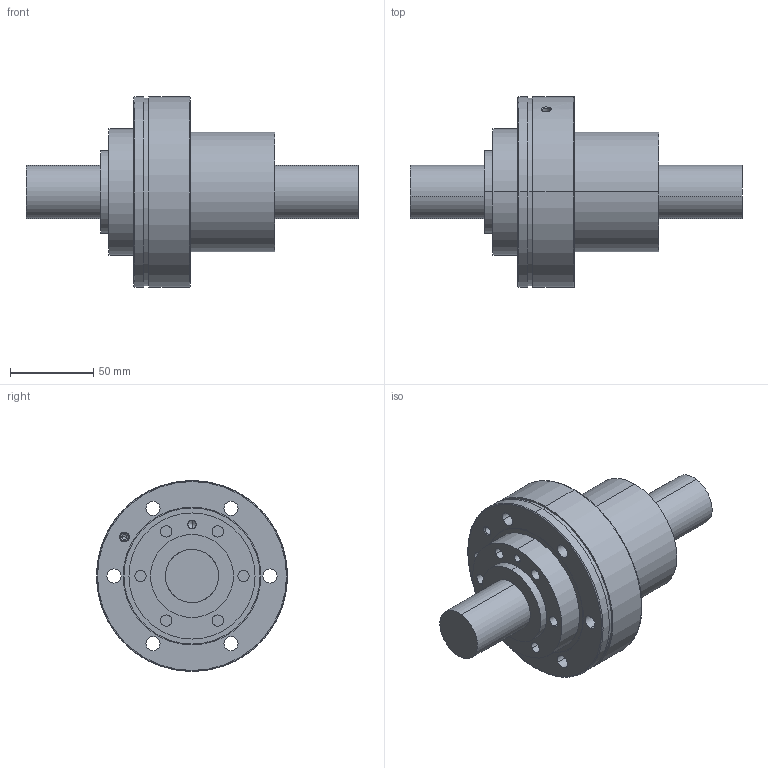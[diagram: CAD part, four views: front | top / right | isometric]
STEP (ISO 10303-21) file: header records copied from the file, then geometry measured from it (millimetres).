
FILE_DESCRIPTION (( 'STEP AP214' ), '1' );
FILE_NAME ('R32-20T2-AME.STEP', '2011-07-22T07:52:06', ( 'test' ), ( '' ), 'SwSTEP 2.0', 'SolidWorks 2010', '' );
FILE_SCHEMA (( 'AUTOMOTIVE_DESIGN' ));
Length unit declared in the file: millimetre
Products named in the file (5): 10002700~0; 10002699~0; 10002687~0; 10002732~0_Vereinfachung<Standard>; R32-20T2-AME
Assembly tree (4 placements, depth 2):
  R32-20T2-AME
    10002700~0
    10002699~0
    10002687~0
    10002732~0_Vereinfachung<Standard>
Bounding box: 200 x 115 x 115 mm (x, y, z)
Volume: 661126.3 mm3; surface area: 161409.8 mm2
Topology: 18 solids, 18 shells, 229 faces, 569 edges, 351 vertices
Faces by surface type: bspline 130, cylinder 60, plane 37, cone 2
Entity records: 10763 total; most frequent: CARTESIAN_POINT 3254, ORIENTED_EDGE 1070, DIRECTION 969, EDGE_CURVE 535, AXIS2_PLACEMENT_3D 410, VERTEX_POINT 351, CIRCLE 304, EDGE_LOOP 284
